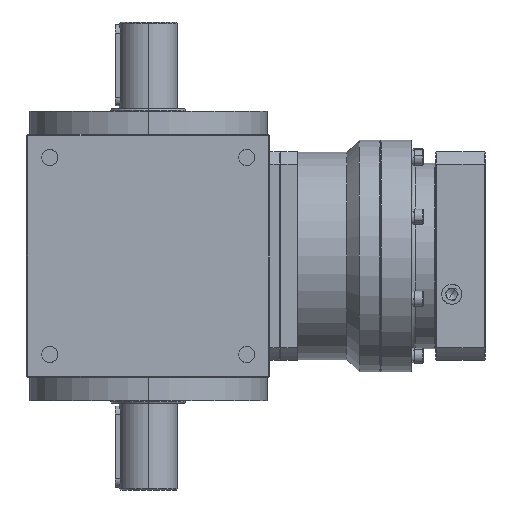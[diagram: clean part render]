
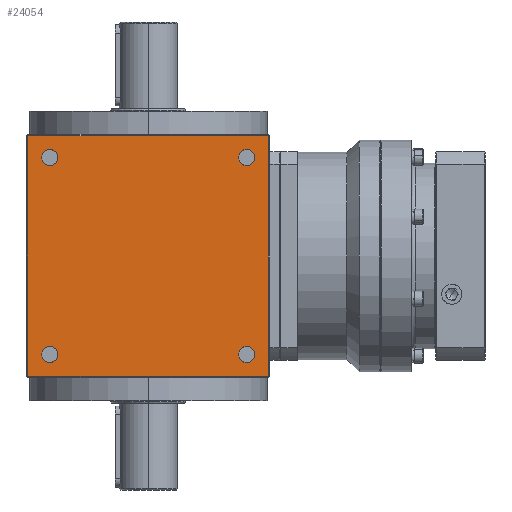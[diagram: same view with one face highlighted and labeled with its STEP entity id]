
A CAD part, left-side view. The second image highlights one B-rep face of the part: STEP entity #24054.
In plain terms, the highlighted planar face has unit normal (-1, 0, 0).
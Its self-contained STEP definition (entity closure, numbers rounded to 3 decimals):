
#437 = VERTEX_POINT ( 'NONE', #26593 ) ;
#570 = EDGE_CURVE ( 'NONE', #2238, #10387, #21995, .T. ) ;
#967 = ORIENTED_EDGE ( 'NONE', *, *, #31699, .T. ) ;
#1043 = DIRECTION ( 'NONE',  ( 1., 0., 0. ) ) ;
#1469 = CARTESIAN_POINT ( 'NONE',  ( -105., -85., -78. ) ) ;
#1688 = DIRECTION ( 'NONE',  ( 0., 0., 1. ) ) ;
#1919 = AXIS2_PLACEMENT_3D ( 'NONE', #15517, #23682, #32024 ) ;
#2238 = VERTEX_POINT ( 'NONE', #2987 ) ;
#2348 = CARTESIAN_POINT ( 'NONE',  ( -105., -85., 85. ) ) ;
#2614 = VERTEX_POINT ( 'NONE', #18868 ) ;
#2670 = CARTESIAN_POINT ( 'NONE',  ( -105., 85., -85. ) ) ;
#2987 = CARTESIAN_POINT ( 'NONE',  ( -105., 85., 92. ) ) ;
#3223 = FACE_BOUND ( 'NONE', #29942, .T. ) ;
#3287 = ORIENTED_EDGE ( 'NONE', *, *, #27632, .T. ) ;
#3567 = DIRECTION ( 'NONE',  ( 0., 0., 1. ) ) ;
#3631 = CIRCLE ( 'NONE', #12281, 7. ) ;
#3903 = ORIENTED_EDGE ( 'NONE', *, *, #570, .T. ) ;
#3925 = EDGE_CURVE ( 'NONE', #437, #25049, #20852, .T. ) ;
#4043 = ORIENTED_EDGE ( 'NONE', *, *, #8666, .T. ) ;
#5362 = LINE ( 'NONE', #32526, #15602 ) ;
#5405 = AXIS2_PLACEMENT_3D ( 'NONE', #13039, #26485, #32790 ) ;
#5738 = CARTESIAN_POINT ( 'NONE',  ( -105., 85., -92. ) ) ;
#5942 = EDGE_CURVE ( 'NONE', #2614, #6489, #15247, .T. ) ;
#6063 = ORIENTED_EDGE ( 'NONE', *, *, #5942, .F. ) ;
#6489 = VERTEX_POINT ( 'NONE', #8110 ) ;
#6530 = VERTEX_POINT ( 'NONE', #21503 ) ;
#7098 = CARTESIAN_POINT ( 'NONE',  ( -105., 105., -104. ) ) ;
#7662 = EDGE_CURVE ( 'NONE', #21966, #18992, #5362, .T. ) ;
#8019 = ORIENTED_EDGE ( 'NONE', *, *, #3925, .T. ) ;
#8110 = CARTESIAN_POINT ( 'NONE',  ( -105., 104., -104. ) ) ;
#8279 = CARTESIAN_POINT ( 'NONE',  ( -105., 85., 85. ) ) ;
#8294 = FACE_OUTER_BOUND ( 'NONE', #35157, .T. ) ;
#8460 = EDGE_CURVE ( 'NONE', #31666, #6530, #17482, .T. ) ;
#8666 = EDGE_CURVE ( 'NONE', #10387, #2238, #35454, .T. ) ;
#8712 = VECTOR ( 'NONE', #18628, 1000. ) ;
#9511 = CARTESIAN_POINT ( 'NONE',  ( -105., 105., -105. ) ) ;
#9983 = AXIS2_PLACEMENT_3D ( 'NONE', #28970, #34223, #17368 ) ;
#10387 = VERTEX_POINT ( 'NONE', #19786 ) ;
#10977 = DIRECTION ( 'NONE',  ( 0., 0., 1. ) ) ;
#11061 = CARTESIAN_POINT ( 'NONE',  ( -105., -104., 104. ) ) ;
#11259 = EDGE_CURVE ( 'NONE', #2614, #21966, #18152, .T. ) ;
#11427 = CARTESIAN_POINT ( 'NONE',  ( -105., 85., -78. ) ) ;
#12281 = AXIS2_PLACEMENT_3D ( 'NONE', #2348, #22251, #27336 ) ;
#13008 = EDGE_CURVE ( 'NONE', #25049, #437, #3631, .T. ) ;
#13039 = CARTESIAN_POINT ( 'NONE',  ( -105., -85., -85. ) ) ;
#13283 = CIRCLE ( 'NONE', #30051, 7. ) ;
#13791 = VERTEX_POINT ( 'NONE', #11427 ) ;
#13881 = DIRECTION ( 'NONE',  ( 1., 0., 0. ) ) ;
#14167 = ORIENTED_EDGE ( 'NONE', *, *, #11259, .T. ) ;
#14352 = CARTESIAN_POINT ( 'NONE',  ( -105., 85., -85. ) ) ;
#15134 = VECTOR ( 'NONE', #1688, 1000. ) ;
#15247 = LINE ( 'NONE', #7098, #16953 ) ;
#15516 = AXIS2_PLACEMENT_3D ( 'NONE', #9511, #31603, #27672 ) ;
#15517 = CARTESIAN_POINT ( 'NONE',  ( -105., 85., 85. ) ) ;
#15602 = VECTOR ( 'NONE', #16407, 1000. ) ;
#15625 = AXIS2_PLACEMENT_3D ( 'NONE', #30922, #1043, #3567 ) ;
#16087 = CARTESIAN_POINT ( 'NONE',  ( -105., -85., 78. ) ) ;
#16407 = DIRECTION ( 'NONE',  ( 0., 1., 0. ) ) ;
#16953 = VECTOR ( 'NONE', #32259, 1000. ) ;
#17322 = VERTEX_POINT ( 'NONE', #5738 ) ;
#17368 = DIRECTION ( 'NONE',  ( 0., 0., 1. ) ) ;
#17371 = AXIS2_PLACEMENT_3D ( 'NONE', #8279, #13881, #22391 ) ;
#17482 = CIRCLE ( 'NONE', #5405, 7. ) ;
#18152 = LINE ( 'NONE', #29210, #15134 ) ;
#18207 = EDGE_LOOP ( 'NONE', ( #3903, #4043 ) ) ;
#18628 = DIRECTION ( 'NONE',  ( 0., 0., -1. ) ) ;
#18868 = CARTESIAN_POINT ( 'NONE',  ( -105., -104., -104. ) ) ;
#18992 = VERTEX_POINT ( 'NONE', #28435 ) ;
#19394 = CIRCLE ( 'NONE', #31556, 7. ) ;
#19496 = FACE_BOUND ( 'NONE', #20305, .T. ) ;
#19774 = EDGE_CURVE ( 'NONE', #17322, #13791, #19394, .T. ) ;
#19786 = CARTESIAN_POINT ( 'NONE',  ( -105., 85., 78. ) ) ;
#20305 = EDGE_LOOP ( 'NONE', ( #8019, #24333 ) ) ;
#20541 = FACE_BOUND ( 'NONE', #18207, .T. ) ;
#20744 = ORIENTED_EDGE ( 'NONE', *, *, #28314, .T. ) ;
#20852 = CIRCLE ( 'NONE', #15625, 7. ) ;
#21345 = LINE ( 'NONE', #24253, #8712 ) ;
#21476 = DIRECTION ( 'NONE',  ( 1., 0., 0. ) ) ;
#21503 = CARTESIAN_POINT ( 'NONE',  ( -105., -85., -92. ) ) ;
#21966 = VERTEX_POINT ( 'NONE', #11061 ) ;
#21995 = CIRCLE ( 'NONE', #17371, 7. ) ;
#22251 = DIRECTION ( 'NONE',  ( 1., 0., 0. ) ) ;
#22391 = DIRECTION ( 'NONE',  ( 0., 0., 1. ) ) ;
#22769 = FACE_BOUND ( 'NONE', #24504, .T. ) ;
#23473 = ORIENTED_EDGE ( 'NONE', *, *, #19774, .T. ) ;
#23682 = DIRECTION ( 'NONE',  ( 1., 0., 0. ) ) ;
#24054 = ADVANCED_FACE ( 'NONE', ( #8294, #19496, #3223, #22769, #20541 ), #33818, .T. ) ;
#24253 = CARTESIAN_POINT ( 'NONE',  ( -105., 104., -105. ) ) ;
#24333 = ORIENTED_EDGE ( 'NONE', *, *, #13008, .T. ) ;
#24504 = EDGE_LOOP ( 'NONE', ( #33020, #967 ) ) ;
#25049 = VERTEX_POINT ( 'NONE', #16087 ) ;
#25770 = ORIENTED_EDGE ( 'NONE', *, *, #7662, .T. ) ;
#26485 = DIRECTION ( 'NONE',  ( 1., 0., 0. ) ) ;
#26593 = CARTESIAN_POINT ( 'NONE',  ( -105., -85., 92. ) ) ;
#27336 = DIRECTION ( 'NONE',  ( 0., 0., 1. ) ) ;
#27363 = CIRCLE ( 'NONE', #9983, 7. ) ;
#27632 = EDGE_CURVE ( 'NONE', #13791, #17322, #13283, .T. ) ;
#27672 = DIRECTION ( 'NONE',  ( 0., -1., 0. ) ) ;
#28314 = EDGE_CURVE ( 'NONE', #18992, #6489, #21345, .T. ) ;
#28435 = CARTESIAN_POINT ( 'NONE',  ( -105., 104., 104. ) ) ;
#28970 = CARTESIAN_POINT ( 'NONE',  ( -105., -85., -85. ) ) ;
#29210 = CARTESIAN_POINT ( 'NONE',  ( -105., -104., -105. ) ) ;
#29942 = EDGE_LOOP ( 'NONE', ( #3287, #23473 ) ) ;
#30051 = AXIS2_PLACEMENT_3D ( 'NONE', #14352, #31395, #31025 ) ;
#30922 = CARTESIAN_POINT ( 'NONE',  ( -105., -85., 85. ) ) ;
#31025 = DIRECTION ( 'NONE',  ( 0., 0., 1. ) ) ;
#31395 = DIRECTION ( 'NONE',  ( 1., 0., 0. ) ) ;
#31556 = AXIS2_PLACEMENT_3D ( 'NONE', #2670, #21476, #10977 ) ;
#31603 = DIRECTION ( 'NONE',  ( -1., 0., 0. ) ) ;
#31666 = VERTEX_POINT ( 'NONE', #1469 ) ;
#31699 = EDGE_CURVE ( 'NONE', #6530, #31666, #27363, .T. ) ;
#32024 = DIRECTION ( 'NONE',  ( 0., 0., 1. ) ) ;
#32259 = DIRECTION ( 'NONE',  ( 0., 1., 0. ) ) ;
#32526 = CARTESIAN_POINT ( 'NONE',  ( -105., 0., 104. ) ) ;
#32790 = DIRECTION ( 'NONE',  ( 0., 0., 1. ) ) ;
#33020 = ORIENTED_EDGE ( 'NONE', *, *, #8460, .T. ) ;
#33818 = PLANE ( 'NONE',  #15516 ) ;
#34223 = DIRECTION ( 'NONE',  ( 1., 0., 0. ) ) ;
#35157 = EDGE_LOOP ( 'NONE', ( #14167, #25770, #20744, #6063 ) ) ;
#35454 = CIRCLE ( 'NONE', #1919, 7. ) ;
